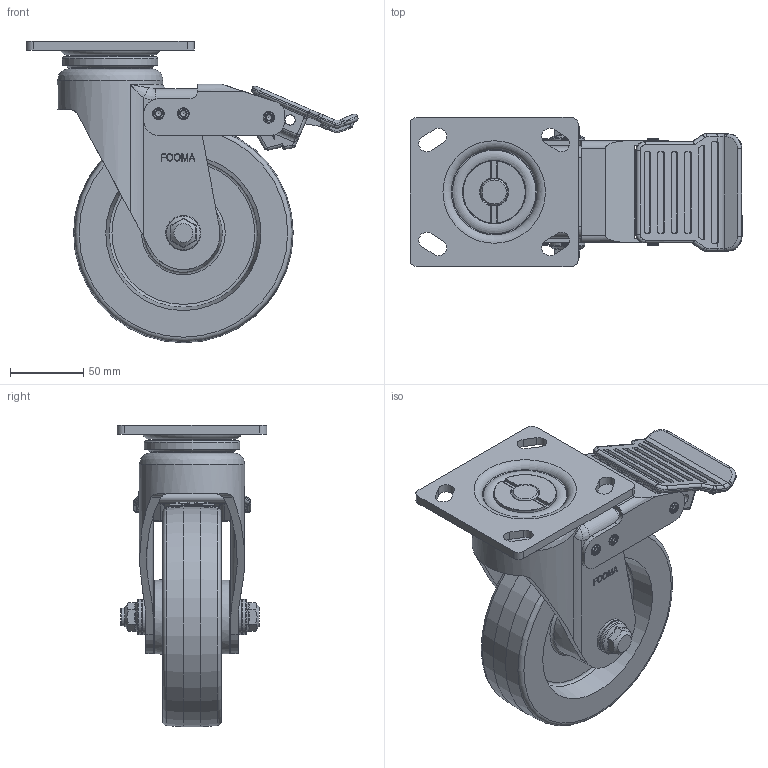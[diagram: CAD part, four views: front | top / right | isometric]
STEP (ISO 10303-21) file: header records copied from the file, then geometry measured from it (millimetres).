
FILE_DESCRIPTION((''),'2;1');
FILE_NAME('C:\Documents and Settings\Administrator\바탕 화면\3D STEP\GH-SERIES\GH-150\GH-150B-SF.stp','2010-12-27T14:25:37',('Administrator'),(''),'Autodesk Inventor 2009','Autodesk Inventor 2009','');
FILE_SCHEMA(('AUTOMOTIVE_DESIGN { 1 0 10303 214 1 1 1 1 }'));
Length unit declared in the file: millimetre
Products named in the file (1): GH-150B-SF
Bounding box: 226.77 x 102 x 205.98 mm (x, y, z)
Volume: 567485.5 mm3; surface area: 225315.3 mm2
Topology: 12 solids, 15 shells, 1181 faces, 3122 edges, 1970 vertices
Faces by surface type: plane 402, cylinder 345, bspline 276, torus 85, cone 53, sphere 20
Full cylindrical faces by diameter (mm): 3 x2, 4 x6, 6 x3, 6.1 x8, 6.5 x2, 7 x2, 8 x6, 12 x1, 15 x2, 15.2 x2, 18.5 x2, 21.5 x1, 22 x1, 24 x4, 29.9 x1, 30 x1, 30.5 x2, 31.615 x2, 35 x2, 41 x1, 44 x2, 48.961 x2, 61 x1, 62 x1, 63.14 x1, 65.14 x1, 72 x1, 150 x1
Entity records: 42566 total; most frequent: CARTESIAN_POINT 15483, ORIENTED_EDGE 5738, DIRECTION 5155, EDGE_CURVE 2869, VERTEX_POINT 1897, AXIS2_PLACEMENT_3D 1886, EDGE_LOOP 1450, VECTOR 1383
